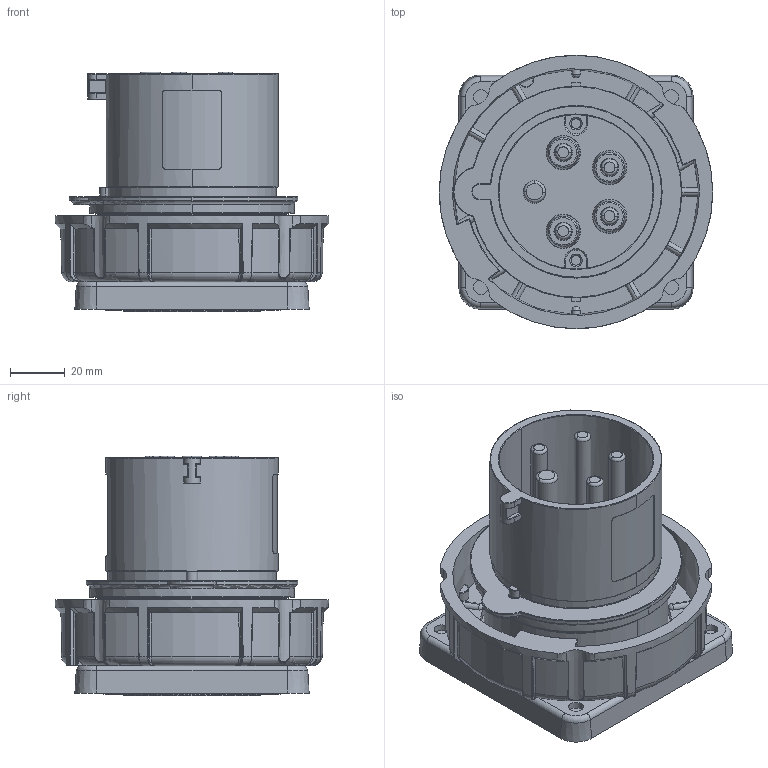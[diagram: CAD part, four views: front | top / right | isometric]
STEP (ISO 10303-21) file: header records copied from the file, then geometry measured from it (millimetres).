
FILE_DESCRIPTION (( 'STEP AP203' ), '1' );
FILE_NAME ('DIS2483297 (PSP 5p 32ﾀ 400ﾂ IP67).STEP', '2024-09-02T08:35:00', ( '' ), ( '' ), 'SwSTEP 2.0', 'SolidWorks 2022', '' );
FILE_SCHEMA (( 'CONFIG_CONTROL_DESIGN' ));
Length unit declared in the file: millimetre
Products named in the file (1): DIS2483297 (PSP 5p 32А 400В IP67)
Bounding box: 100 x 100 x 87.6 mm (x, y, z)
Volume: 254656.9 mm3; surface area: 69474.4 mm2
Topology: 1 solids, 1 shells, 691 faces, 1774 edges, 1080 vertices
Faces by surface type: cylinder 163, plane 154, bspline 150, torus 94, cone 87, sphere 43
Entity records: 27329 total; most frequent: CARTESIAN_POINT 11936, ORIENTED_EDGE 3448, DIRECTION 2997, EDGE_CURVE 1724, AXIS2_PLACEMENT_3D 1295, VERTEX_POINT 1068, CIRCLE 753, EDGE_LOOP 724
